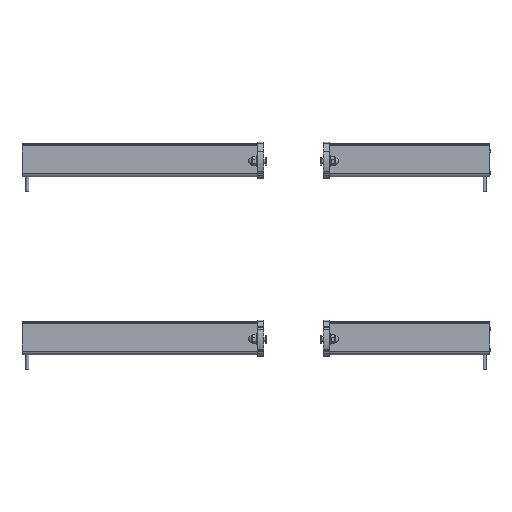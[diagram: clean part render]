
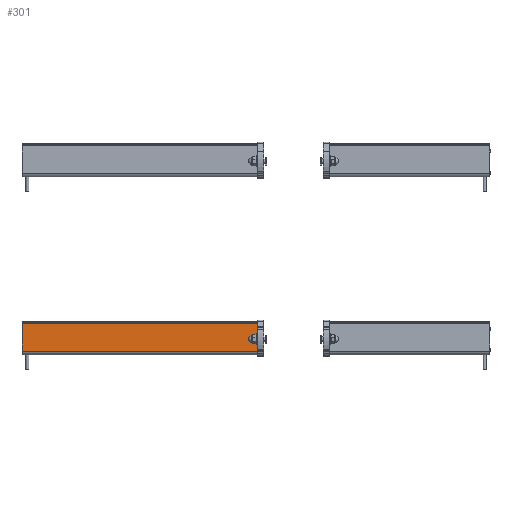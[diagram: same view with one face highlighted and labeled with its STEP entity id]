
A CAD part, top view. The second image highlights one B-rep face of the part: STEP entity #301.
In plain terms, the highlighted planar face has unit normal (0, 0, 1).
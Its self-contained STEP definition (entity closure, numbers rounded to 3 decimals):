
#301 = ADVANCED_FACE( '', ( #937 ), #938, .F. );
#937 = FACE_OUTER_BOUND( '', #2024, .T. );
#938 = PLANE( '', #2025 );
#2024 = EDGE_LOOP( '', ( #3800, #3801, #3802, #3803 ) );
#2025 = AXIS2_PLACEMENT_3D( '', #3804, #3805, #3806 );
#3800 = ORIENTED_EDGE( '', *, *, #7271, .T. );
#3801 = ORIENTED_EDGE( '', *, *, #7351, .F. );
#3802 = ORIENTED_EDGE( '', *, *, #7143, .F. );
#3803 = ORIENTED_EDGE( '', *, *, #7311, .T. );
#3804 = CARTESIAN_POINT( '', ( 14., 41.189, 17.5 ) );
#3805 = DIRECTION( '', ( 0., 0., -1. ) );
#3806 = DIRECTION( '', ( -1., 0., 0. ) );
#7143 = EDGE_CURVE( '', #8566, #8568, #8569, .T. );
#7271 = EDGE_CURVE( '', #8779, #8780, #8781, .T. );
#7311 = EDGE_CURVE( '', #8566, #8779, #8859, .T. );
#7351 = EDGE_CURVE( '', #8568, #8780, #8900, .T. );
#8566 = VERTEX_POINT( '', #10822 );
#8568 = VERTEX_POINT( '', #10824 );
#8569 = LINE( '', #10825, #10826 );
#8779 = VERTEX_POINT( '', #11115 );
#8780 = VERTEX_POINT( '', #11116 );
#8781 = LINE( '', #11117, #11118 );
#8859 = LINE( '', #11215, #11216 );
#8900 = LINE( '', #11295, #11296 );
#10822 = CARTESIAN_POINT( '', ( 314., 41.189, 17.5 ) );
#10824 = CARTESIAN_POINT( '', ( 314., 5., 17.5 ) );
#10825 = CARTESIAN_POINT( '', ( 314., 41.189, 17.5 ) );
#10826 = VECTOR( '', #13847, 1000. );
#11115 = CARTESIAN_POINT( '', ( 0., 41.189, 17.5 ) );
#11116 = CARTESIAN_POINT( '', ( 0., 5., 17.5 ) );
#11117 = CARTESIAN_POINT( '', ( 0., 41.189, 17.5 ) );
#11118 = VECTOR( '', #14071, 1000. );
#11215 = CARTESIAN_POINT( '', ( 14., 41.189, 17.5 ) );
#11216 = VECTOR( '', #14151, 1000. );
#11295 = CARTESIAN_POINT( '', ( 14., 5., 17.5 ) );
#11296 = VECTOR( '', #14193, 1000. );
#13847 = DIRECTION( '', ( 0., -1., 0. ) );
#14071 = DIRECTION( '', ( 0., -1., 0. ) );
#14151 = DIRECTION( '', ( -1., 0., 0. ) );
#14193 = DIRECTION( '', ( -1., 0., 0. ) );
